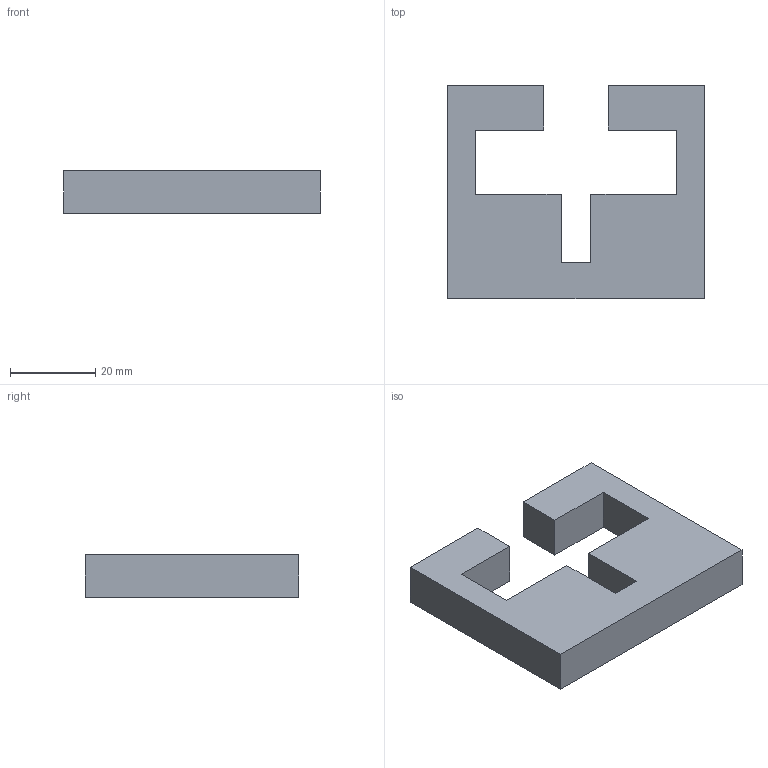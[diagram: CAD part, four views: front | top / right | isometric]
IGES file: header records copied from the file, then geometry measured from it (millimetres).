
Start section: SolidWorks IGES file using analytic representation for surfaces
Global section: file name: C:\Documents and Settings\ARGE\Desktop\yeni katalog tolgay düzenli\E kataloðu\ALPOLEN 1000 GHE SIRALI ZÝNCÝR KIZAKLARI\207 GHE 060.IGS; native system: SolidWorks 2006 by SolidWorks Corporation; preprocessor: SolidWorks 2006 by SolidWorks Corporation; author: ARGE2; date: 060912.175714; units: millimetre
Bounding box: 60 x 50 x 10 mm (x, y, z)
Surface area: 7721 mm2 (no closed solid volume)
Topology: 0 solids, 0 shells, 18 faces, 96 edges, 96 vertices
Faces by surface type: bspline 18
